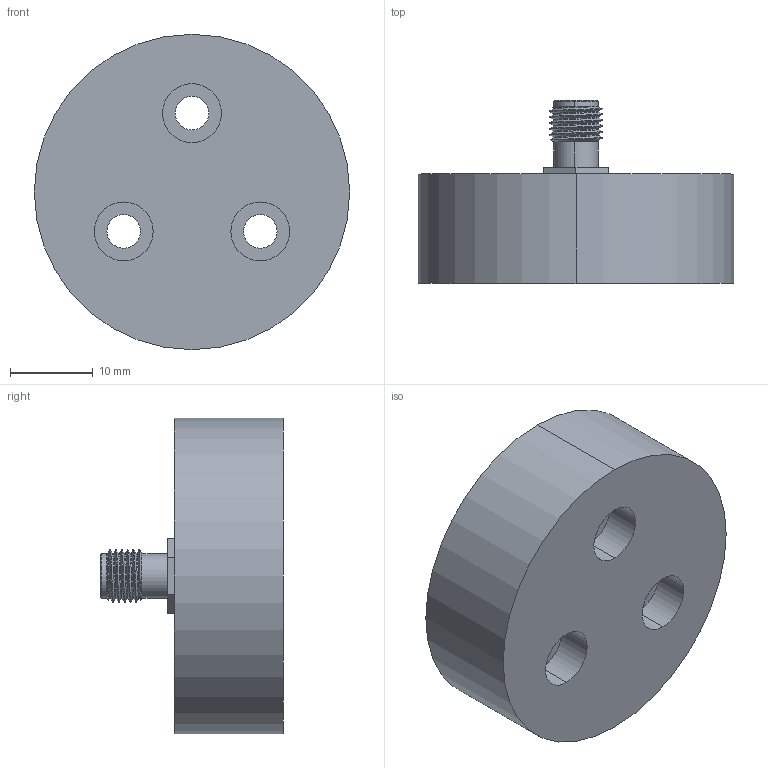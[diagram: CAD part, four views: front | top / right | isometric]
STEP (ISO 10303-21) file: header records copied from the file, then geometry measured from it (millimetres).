
FILE_DESCRIPTION (( 'STEP AP203' ), '1' );
FILE_NAME ('15U1.STEP', '2010-03-05T18:58:14', ( 'tom edwards' ), ( 'Tom J. Edwards' ), 'SwSTEP 2.0', 'SolidWorks 2008', '' );
FILE_SCHEMA (( 'CONFIG_CONTROL_DESIGN' ));
Length unit declared in the file: millimetre
Products named in the file (4): 15U1; 2S1_sma; MSHXNUT 0.138-32-S-S_MSHXNUT 0.138-32-S-S
Assembly tree (3 placements, depth 2):
  15U1
    15U1
    MSHXNUT 0.138-32-S-S_MSHXNUT 0.138-32-S-S
    2S1_sma
Bounding box: 38.1 x 22.11 x 38.1 mm (x, y, z)
Volume: 14518.5 mm3; surface area: 4973.5 mm2
Topology: 3 solids, 3 shells, 280 faces, 628 edges, 362 vertices
Faces by surface type: cylinder 99, cone 97, plane 82, bspline 2
Entity records: 8752 total; most frequent: CARTESIAN_POINT 2442, ORIENTED_EDGE 1256, DIRECTION 1226, EDGE_CURVE 628, AXIS2_PLACEMENT_3D 513, VERTEX_POINT 362, EDGE_LOOP 296, ADVANCED_FACE 280
